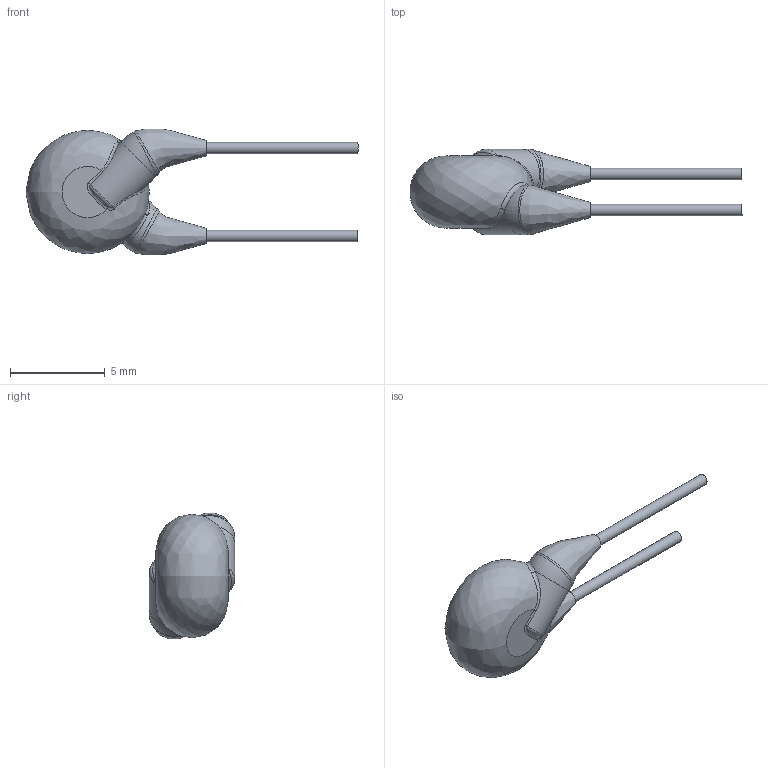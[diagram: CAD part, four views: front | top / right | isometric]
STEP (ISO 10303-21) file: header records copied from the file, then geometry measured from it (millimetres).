
FILE_DESCRIPTION(/* description */ (''),/* implementation_level */ '2;1');
FILE_NAME(/* name */ 'I:\Marketing\M6t1\3D-Models\Zchng-Werk-3\Upload for homepage\Roederstein\WYO\Y5U_250-440\WYO102MCMBD0KR\WYO102MCMBD0KR.stp',/* time_stamp */ '2018-03-21T10:53:09+01:00',/* author */ ('sheinrich'),/* organization */ (''),/* preprocessor_version */ 'ST-DEVELOPER v16.1',/* originating_system */ 'Autodesk Inventor 2016',/* authorisation */ '');
FILE_SCHEMA (('AUTOMOTIVE_DESIGN { 1 0 10303 214 3 1 1 }'));
Length unit declared in the file: centimetre
Products named in the file (1): WYO102MCMBD0KR
Bounding box: 17.5 x 4.5 x 6.63 mm (x, y, z)
Volume: 131.2 mm3; surface area: 181.4 mm2
Topology: 1 solids, 1 shells, 31 faces, 67 edges, 40 vertices
Faces by surface type: bspline 15, plane 6, cylinder 6, torus 4
Full cylindrical faces by diameter (mm): 0.6 x2
Entity records: 1661 total; most frequent: CARTESIAN_POINT 1029, ORIENTED_EDGE 122, DIRECTION 94, EDGE_CURVE 61, AXIS2_PLACEMENT_3D 45, VERTEX_POINT 38, EDGE_LOOP 37, STYLED_ITEM 32
